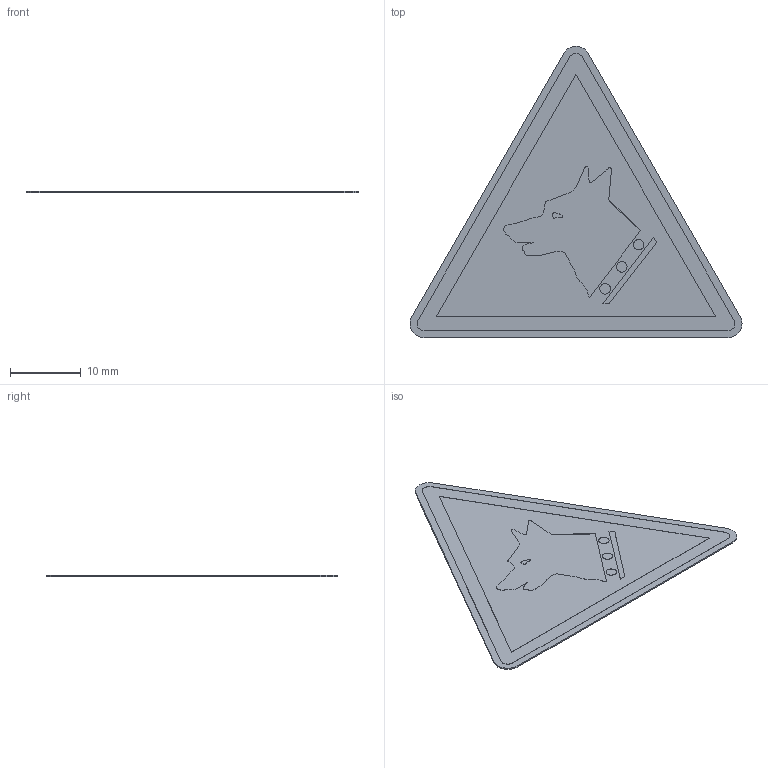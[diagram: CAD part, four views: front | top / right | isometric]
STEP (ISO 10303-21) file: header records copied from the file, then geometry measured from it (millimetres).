
FILE_DESCRIPTION (( 'STEP AP214' ), '1' );
FILE_NAME ('W013_Warnung vor Wachhunden.STEP', '2022-02-22T08:14:47', ( '' ), ( '' ), 'SwSTEP 2.0', 'SolidWorks 2021', '' );
FILE_SCHEMA (( 'AUTOMOTIVE_DESIGN' ));
Length unit declared in the file: millimetre
Products named in the file (1): W013_Warnung vor Wachhunden
Bounding box: 47.07 x 41.3 x 0.22 mm (x, y, z)
Volume: 221.6 mm3; surface area: 2190 mm2
Topology: 1 solids, 1 shells, 42 faces, 96 edges, 64 vertices
Faces by surface type: plane 24, cylinder 14, bspline 4
Entity records: 2023 total; most frequent: CARTESIAN_POINT 691, DIRECTION 194, ORIENTED_EDGE 192, EDGE_CURVE 96, AXIS2_PLACEMENT_3D 67, VERTEX_POINT 64, VECTOR 60, LINE 60
